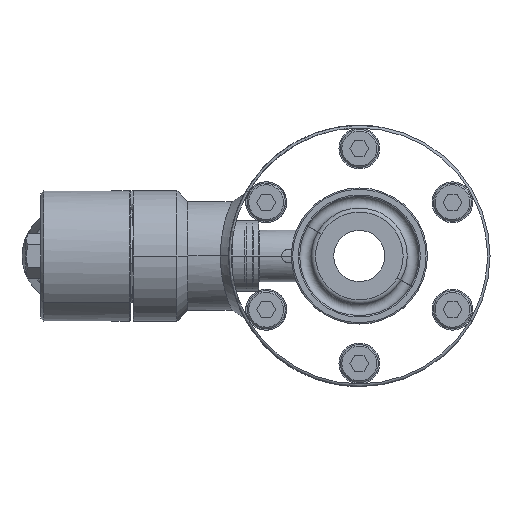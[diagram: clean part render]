
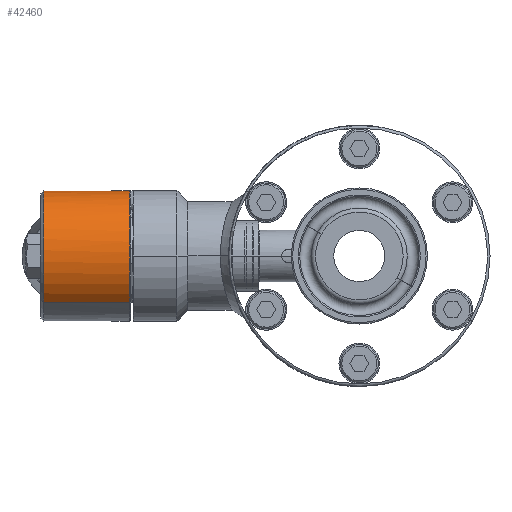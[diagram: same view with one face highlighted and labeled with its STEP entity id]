
A CAD part, left-side view. The second image highlights one B-rep face of the part: STEP entity #42460.
In plain terms, the highlighted cylindrical face has radius 12 mm (diameter 24 mm), a partial arc.
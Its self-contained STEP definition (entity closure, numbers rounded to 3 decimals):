
#16432=DIRECTION('',(0.,-1.,0.));
#16433=VECTOR('',#16432,2.);
#16434=CARTESIAN_POINT('',(-0.1,44.2,12.));
#16435=LINE('',#16434,#16433);
#16439=CARTESIAN_POINT('',(0.,44.2,0.));
#16440=DIRECTION('',(0.,-1.,0.));
#16441=DIRECTION('',(0.,0.,1.));
#16442=AXIS2_PLACEMENT_3D('',#16439,#16440,#16441);
#16484=CARTESIAN_POINT('',(0.,42.2,0.));
#16485=DIRECTION('',(0.,1.,0.));
#16486=DIRECTION('',(-0.707,0.,-0.707));
#16487=AXIS2_PLACEMENT_3D('',#16484,#16485,#16486);
#16492=DIRECTION('',(0.,1.,0.));
#16493=VECTOR('',#16492,15.8);
#16494=CARTESIAN_POINT('',(-8.485,42.2,-8.485));
#16495=LINE('',#16494,#16493);
#16499=CARTESIAN_POINT('',(0.,58.,0.));
#16500=DIRECTION('',(0.,1.,0.));
#16501=DIRECTION('',(-0.707,0.,-0.707));
#16502=AXIS2_PLACEMENT_3D('',#16499,#16500,#16501);
#16507=DIRECTION('',(0.,1.,0.));
#16508=VECTOR('',#16507,12.5);
#16509=CARTESIAN_POINT('',(8.485,45.5,8.485));
#16510=LINE('',#16509,#16508);
#16514=CARTESIAN_POINT('',(0.,45.5,0.));
#16515=DIRECTION('',(0.,-1.,0.));
#16516=DIRECTION('',(0.707,0.,0.707));
#16517=AXIS2_PLACEMENT_3D('',#16514,#16515,#16516);
#16522=DIRECTION('',(0.,-1.,0.));
#16523=VECTOR('',#16522,1.3);
#16524=CARTESIAN_POINT('',(0.,45.5,12.));
#16525=LINE('',#16524,#16523);
#29796=CARTESIAN_POINT('',(0.,45.5,12.));
#29797=VERTEX_POINT('',#29796);
#29800=CARTESIAN_POINT('',(8.485,45.5,8.485));
#29801=VERTEX_POINT('',#29800);
#30282=CARTESIAN_POINT('',(8.485,58.,8.485));
#30283=CARTESIAN_POINT('',(-8.485,58.,-8.485));
#30284=VERTEX_POINT('',#30282);
#30285=VERTEX_POINT('',#30283);
#30294=CARTESIAN_POINT('',(-8.485,42.2,-8.485));
#30295=VERTEX_POINT('',#30294);
#30436=CARTESIAN_POINT('',(-0.1,44.2,12.));
#30437=CARTESIAN_POINT('',(-0.1,42.2,12.));
#30438=VERTEX_POINT('',#30436);
#30439=VERTEX_POINT('',#30437);
#30441=CARTESIAN_POINT('',(0.,44.2,12.));
#30442=VERTEX_POINT('',#30441);
#42441=CARTESIAN_POINT('',(0.,59.325,0.));
#42442=DIRECTION('',(0.,-1.,0.));
#42443=DIRECTION('',(0.707,0.,0.707));
#42444=AXIS2_PLACEMENT_3D('',#42441,#42442,#42443);
#42445=CYLINDRICAL_SURFACE('',#42444,12.);
#42446=ORIENTED_EDGE('',*,*,#42419,.T.);
#42448=ORIENTED_EDGE('',*,*,#42447,.F.);
#42450=ORIENTED_EDGE('',*,*,#42449,.T.);
#42452=ORIENTED_EDGE('',*,*,#42451,.T.);
#42454=ORIENTED_EDGE('',*,*,#42453,.F.);
#42455=ORIENTED_EDGE('',*,*,#42284,.T.);
#42456=ORIENTED_EDGE('',*,*,#42308,.T.);
#42457=ORIENTED_EDGE('',*,*,#42421,.T.);
#42458=EDGE_LOOP('',(#42446,#42448,#42450,#42452,#42454,#42455,#42456,#42457));
#42459=FACE_OUTER_BOUND('',#42458,.F.);
#42460=ADVANCED_FACE('',(#42459),#42445,.T.);
#16443=CIRCLE('',#16442,12.);
#16488=CIRCLE('',#16487,12.);
#16503=CIRCLE('',#16502,12.);
#16518=CIRCLE('',#16517,12.);
#42284=EDGE_CURVE('',#29801,#29797,#16518,.T.);
#42308=EDGE_CURVE('',#29797,#30442,#16525,.T.);
#42419=EDGE_CURVE('',#30438,#30439,#16435,.T.);
#42421=EDGE_CURVE('',#30442,#30438,#16443,.T.);
#42447=EDGE_CURVE('',#30295,#30439,#16488,.T.);
#42449=EDGE_CURVE('',#30295,#30285,#16495,.T.);
#42451=EDGE_CURVE('',#30285,#30284,#16503,.T.);
#42453=EDGE_CURVE('',#29801,#30284,#16510,.T.);
